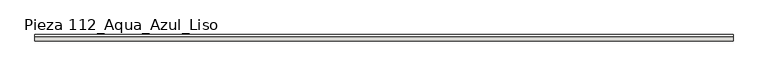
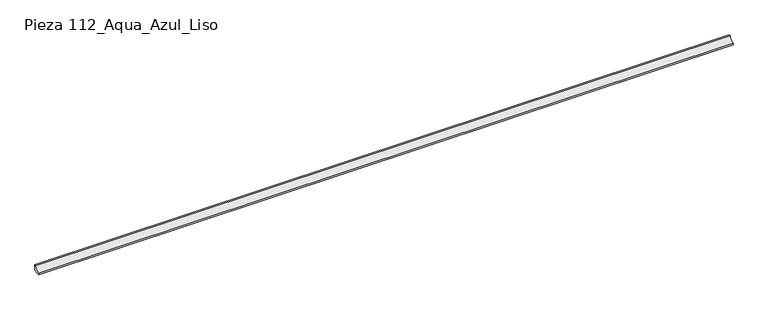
"""IFC4 building model written with IfcOpenShell, lengths in millimetres: slab geometry, ROSA GRES_112 : Pieza 112_Aqua_Azul_Liso."""

from ifc_helpers import new_model, si_unit, point, frame, frame_2d, origin, place, context, project, spatial, polyline, circle_curve, trimmed, segment, composite_curve, outline, extrude, source, transform, mapped, element, save


def pieza_112_aqua_azul_liso_12b241ae(model_context):
    return source(origin(), model_context, "Body", "SweptSolid", [
        extrude(outline(composite_curve([segment(polyline([(0.0, 8.7114978), (-8.7114978, 0.0), (-40.0, 0.0), (-40.0, 9.9734114)]), True, "CONTINUOUS"), segment(trimmed(circle_curve(frame_2d((-39.9955547, 39.9955547)), 30.0221435), [point((-40.0, 9.9734114))], [point((-9.9734114, 40.0))], True, "CARTESIAN"), True, "CONTINUOUS"), segment(polyline([(-9.9734114, 40.0), (0.0, 40.0), (0.0, 8.7114978)]), True, "CONTINUOUS")], self_intersect=False)), frame((0.0, 0.0, 0.0), z_axis=(1.0, 0.0, 0.0), x_axis=(0.0, 1.0, 0.0)), (0.0, 0.0, 1.0), 4239.9468229),
    ])


if __name__ == "__main__":
    model = new_model("IFC4")
    model_context = context("Model", 3, world=origin())
    ifc_project = project(units=[si_unit("LENGTHUNIT", "METRE", prefix="MILLI")], contexts=[model_context])
    site = spatial("IfcSite", under=ifc_project)
    building = spatial("IfcBuilding", under=site)
    placement = place(None, origin())
    pieza_112_aqua_azul_liso_shape = pieza_112_aqua_azul_liso_12b241ae(model_context)
    element("IfcSlab", 1, ObjectType="ROSA GRES_112 : Pieza 112_Aqua_Azul_Liso", at=placement, inside=building, context=model_context, shape_type="MappedRepresentation", body=[
        mapped(pieza_112_aqua_azul_liso_shape, transform((0.0, 0.0, 0.0), x_axis=(1.0, 0.0, 0.0), y_axis=(0.0, 1.0, 0.0), z_axis=(0.0, 0.0, 1.0))),
    ])
    save(model, "model.ifc")
